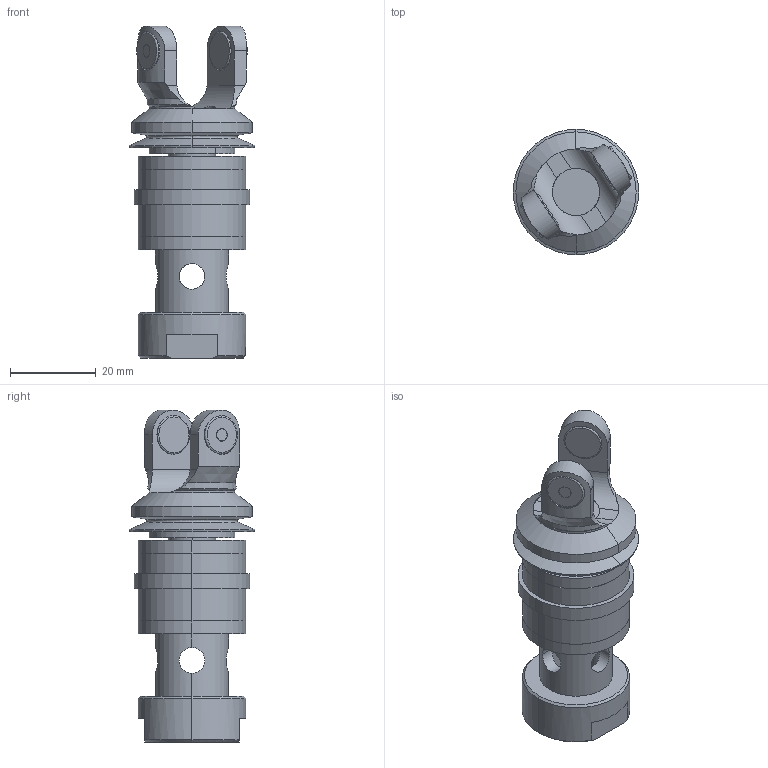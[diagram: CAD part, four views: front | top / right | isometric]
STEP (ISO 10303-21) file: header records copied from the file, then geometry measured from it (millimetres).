
FILE_DESCRIPTION (( 'STEP AP214' ), '1' );
FILE_NAME ('IRB360_X-1600-STD-4D_rev04_FACEPLATE_CAD.step', '2025-01-27T14:51:56', ( '' ), ( '' ), 'SwSTEP 2.0', 'SolidWorks 2022', '' );
FILE_SCHEMA (( 'AUTOMOTIVE_DESIGN' ));
Length unit declared in the file: millimetre
Products named in the file (1): IRB360_X-1600-STD-4D_rev04_FACEPLATE_CAD
Bounding box: 29.23 x 29.23 x 77.3 mm (x, y, z)
Volume: 20392.2 mm3; surface area: 13128.6 mm2
Topology: 6 solids, 6 shells, 183 faces, 446 edges, 268 vertices
Faces by surface type: cylinder 79, plane 42, cone 32, torus 16, bspline 14
Entity records: 6570 total; most frequent: CARTESIAN_POINT 2246, DIRECTION 871, ORIENTED_EDGE 864, EDGE_CURVE 432, AXIS2_PLACEMENT_3D 351, VERTEX_POINT 268, EDGE_LOOP 210, ADVANCED_FACE 183
